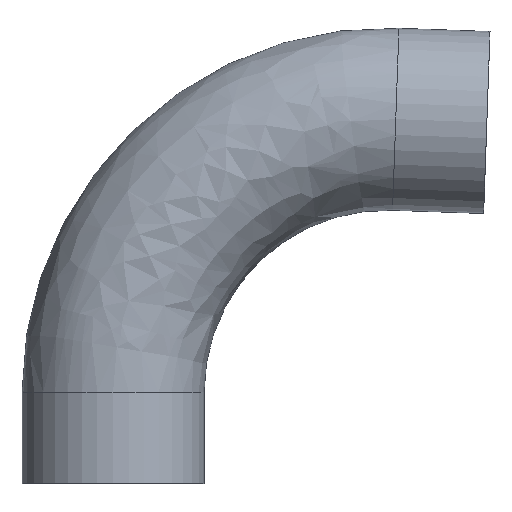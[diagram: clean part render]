
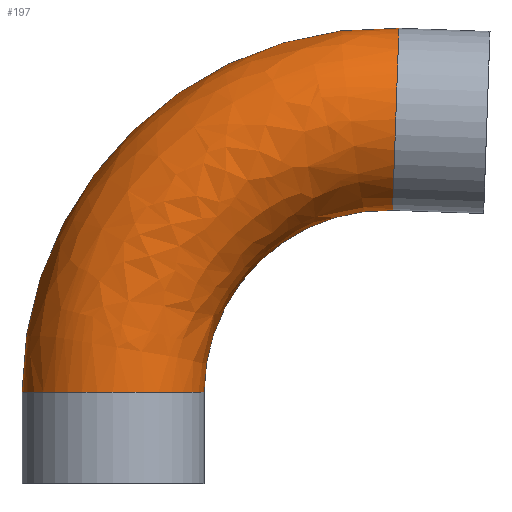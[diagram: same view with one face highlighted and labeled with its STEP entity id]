
A CAD part, top view. The second image highlights one B-rep face of the part: STEP entity #197.
In plain terms, the highlighted free-form (B-spline) face has degree [3, 3] with [4, 4] control points.
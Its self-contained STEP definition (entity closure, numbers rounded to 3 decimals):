
#5 = DIRECTION ( 'NONE',  ( -0.999, 0.035, 0. ) ) ;
#8 = CARTESIAN_POINT ( 'NONE',  ( 157.719, 203.194, 0. ) ) ;
#13 =( BOUNDED_SURFACE ( )  B_SPLINE_SURFACE ( 3, 3, ( 
 ( #205, #187, #207, #217 ),
 ( #220, #237, #240, #248 ),
 ( #358, #357, #343, #355 ),
 ( #365, #364, #253, #257 ) ),
 .UNSPECIFIED., .F., .F., .F. ) 
 B_SPLINE_SURFACE_WITH_KNOTS ( ( 4, 4 ),
 ( 4, 4 ),
 ( 0., 1. ),
 ( 0., 1. ),
 .UNSPECIFIED. ) 
 GEOMETRIC_REPRESENTATION_ITEM ( )  RATIONAL_B_SPLINE_SURFACE ( (
 ( 1., 0.796, 0.796, 1.),
 ( 0.333, 0.265, 0.265, 0.333),
 ( 0.333, 0.265, 0.265, 0.333),
 ( 1., 0.796, 0.796, 1.) ) ) 
 REPRESENTATION_ITEM ( '' )  SURFACE ( )  );
#14 = AXIS2_PLACEMENT_3D ( 'NONE', #163, #164, #165 ) ;
#21 = EDGE_CURVE ( 'NONE', #233, #361, #325, .T. ) ;
#26 = AXIS2_PLACEMENT_3D ( 'NONE', #8, #5, #385 ) ;
#40 = DIRECTION ( 'NONE',  ( -1., 0., 0. ) ) ;
#47 = FACE_OUTER_BOUND ( 'NONE', #111, .T. ) ;
#52 = DIRECTION ( 'NONE',  ( 0., 0., -1. ) ) ;
#57 = EDGE_CURVE ( 'NONE', #200, #361, #321, .T. ) ;
#58 = CARTESIAN_POINT ( 'NONE',  ( 152.4, 50.887, 0. ) ) ;
#68 = CIRCLE ( 'NONE', #231, 101.6 ) ;
#78 = CARTESIAN_POINT ( 'NONE',  ( -50.8, 50.887, 0. ) ) ;
#111 = EDGE_LOOP ( 'NONE', ( #238, #254, #428, #171 ) ) ;
#125 = EDGE_CURVE ( 'NONE', #233, #386, #236, .T. ) ;
#163 = CARTESIAN_POINT ( 'NONE',  ( 0., 50.887, 0. ) ) ;
#164 = DIRECTION ( 'NONE',  ( 0., 1., 0. ) ) ;
#165 = DIRECTION ( 'NONE',  ( -1., 0., 0. ) ) ;
#171 = ORIENTED_EDGE ( 'NONE', *, *, #21, .F. ) ;
#187 = CARTESIAN_POINT ( 'NONE',  ( -50.8, 173.24, 0. ) ) ;
#197 = ADVANCED_FACE ( 'NONE', ( #47 ), #13, .T. ) ;
#200 = VERTEX_POINT ( 'NONE', #314 ) ;
#205 = CARTESIAN_POINT ( 'NONE',  ( -50.8, 50.887, 0. ) ) ;
#207 = CARTESIAN_POINT ( 'NONE',  ( 37.213, 258.233, 0. ) ) ;
#217 = CARTESIAN_POINT ( 'NONE',  ( 159.492, 253.963, 0. ) ) ;
#220 = CARTESIAN_POINT ( 'NONE',  ( -50.8, 50.887, 101.6 ) ) ;
#231 = AXIS2_PLACEMENT_3D ( 'NONE', #427, #432, #434 ) ;
#233 = VERTEX_POINT ( 'NONE', #78 ) ;
#236 = CIRCLE ( 'NONE', #14, 50.8 ) ;
#237 = CARTESIAN_POINT ( 'NONE',  ( -50.8, 173.24, 101.6 ) ) ;
#238 = ORIENTED_EDGE ( 'NONE', *, *, #125, .T. ) ;
#240 = CARTESIAN_POINT ( 'NONE',  ( 37.213, 258.233, 101.6 ) ) ;
#248 = CARTESIAN_POINT ( 'NONE',  ( 159.492, 253.963, 101.6 ) ) ;
#253 = CARTESIAN_POINT ( 'NONE',  ( 94.807, 154.56, 0. ) ) ;
#254 = ORIENTED_EDGE ( 'NONE', *, *, #329, .T. ) ;
#257 = CARTESIAN_POINT ( 'NONE',  ( 155.946, 152.425, 0. ) ) ;
#285 = AXIS2_PLACEMENT_3D ( 'NONE', #58, #52, #40 ) ;
#314 = CARTESIAN_POINT ( 'NONE',  ( 155.946, 152.425, 0. ) ) ;
#321 = CIRCLE ( 'NONE', #26, 50.8 ) ;
#325 = CIRCLE ( 'NONE', #285, 203.2 ) ;
#329 = EDGE_CURVE ( 'NONE', #386, #200, #68, .T. ) ;
#343 = CARTESIAN_POINT ( 'NONE',  ( 94.807, 154.56, 101.6 ) ) ;
#355 = CARTESIAN_POINT ( 'NONE',  ( 155.946, 152.425, 101.6 ) ) ;
#357 = CARTESIAN_POINT ( 'NONE',  ( 50.8, 112.064, 101.6 ) ) ;
#358 = CARTESIAN_POINT ( 'NONE',  ( 50.8, 50.887, 101.6 ) ) ;
#361 = VERTEX_POINT ( 'NONE', #425 ) ;
#364 = CARTESIAN_POINT ( 'NONE',  ( 50.8, 112.064, 0. ) ) ;
#365 = CARTESIAN_POINT ( 'NONE',  ( 50.8, 50.887, 0. ) ) ;
#372 = CARTESIAN_POINT ( 'NONE',  ( 50.8, 50.887, 0. ) ) ;
#385 = DIRECTION ( 'NONE',  ( 0.035, 0.999, 0. ) ) ;
#386 = VERTEX_POINT ( 'NONE', #372 ) ;
#425 = CARTESIAN_POINT ( 'NONE',  ( 159.492, 253.963, 0. ) ) ;
#427 = CARTESIAN_POINT ( 'NONE',  ( 152.4, 50.887, 0. ) ) ;
#428 = ORIENTED_EDGE ( 'NONE', *, *, #57, .T. ) ;
#432 = DIRECTION ( 'NONE',  ( 0., 0., -1. ) ) ;
#434 = DIRECTION ( 'NONE',  ( -1., 0., 0. ) ) ;
